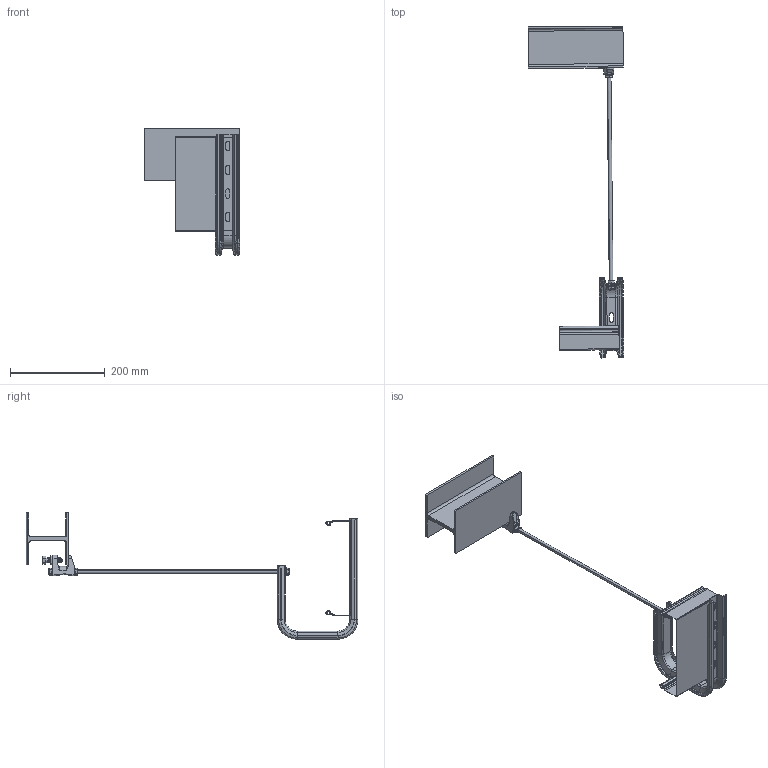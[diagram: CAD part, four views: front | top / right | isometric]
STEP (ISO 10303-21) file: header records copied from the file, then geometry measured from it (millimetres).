
FILE_DESCRIPTION (( 'STEP AP214' ), '1' );
FILE_NAME ('ﾑﾏﾏﾓ+ﾋﾏﾌﾇﾒ(ﾌ)+ﾑﾒﾐ10.STEP', '2016-10-05T20:20:36', ( '' ), ( '' ), 'SwSTEP 2.0', 'SolidWorks 2016', '' );
FILE_SCHEMA (( 'AUTOMOTIVE_DESIGN' ));
Length unit declared in the file: millimetre
Products named in the file (10): Áàëêà; 067809 襟8捘_Hexagon Flange Nut DIN 6923 - M8 - N; 053819 ÑÒÐ10ê; 015Á1-89 - Áîëò ñ øåñòèãðàííîé ãîëîâêîé êë.òî÷í.À (ÃÎÑÒ 7805-70)_äëÿ êàòàëîãà ñ ðåçüáîé; ñòðóáöèíà Ì10; Ãàéêà øåñòèãðàííàÿ íèçêàÿ êë. ò.À ÃÎÑÒ 5929-70_Ì10; 064829 ØÏ8-2_Œ8å500; 051011-051031 严嫌_憦彄-200; Ëîòîê Îáðàç_200å50; ﾑﾏﾏﾓ+ﾋﾏﾌﾇﾒ(ﾌ)+ﾑﾒﾐ10
Assembly tree (12 placements, depth 3):
  ﾑﾏﾏﾓ+ﾋﾏﾌﾇﾒ(ﾌ)+ﾑﾒﾐ10
    Ëîòîê Îáðàç_200å50
    051011-051031 严嫌_憦彄-200
    064829 ØÏ8-2_Œ8å500
    053819 ÑÒÐ10ê
      Ãàéêà øåñòèãðàííàÿ íèçêàÿ êë. ò.À ÃÎÑÒ 5929-70_Ì10
      ñòðóáöèíà Ì10
      015Á1-89 - Áîëò ñ øåñòèãðàííîé ãîëîâêîé êë.òî÷í.À (ÃÎÑÒ 7805-70)_äëÿ êàòàëîãà ñ ðåçüáîé
    067809 襟8捘_Hexagon Flange Nut DIN 6923 - M8 - N  x4
    Áàëêà
Bounding box: 202.06 x 699.47 x 266.45 mm (x, y, z)
Volume: 475314.3 mm3; surface area: 314269 mm2
Topology: 11 solids, 11 shells, 586 faces, 1427 edges, 864 vertices
Faces by surface type: cylinder 242, plane 188, cone 84, bspline 40, torus 32
Entity records: 19855 total; most frequent: CARTESIAN_POINT 6153, ORIENTED_EDGE 2434, DIRECTION 2234, EDGE_CURVE 1217, AXIS2_PLACEMENT_3D 818, VERTEX_POINT 744, VECTOR 598, LINE 598
